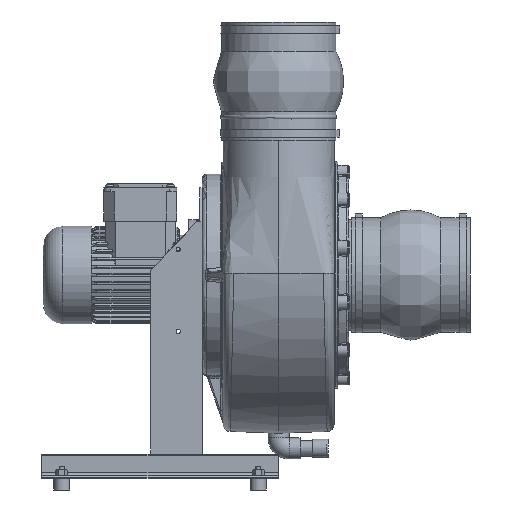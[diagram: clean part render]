
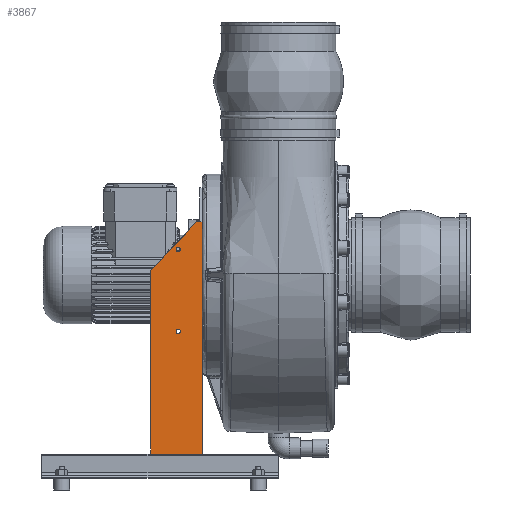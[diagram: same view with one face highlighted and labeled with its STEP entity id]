
A CAD part, left-side view. The second image highlights one B-rep face of the part: STEP entity #3867.
In plain terms, the highlighted planar face has unit normal (-1, 0, 0).
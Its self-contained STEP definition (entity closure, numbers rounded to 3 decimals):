
#3867 = ADVANCED_FACE( '', ( #9234, #9235, #9236 ), #9237, .T. );
#9234 = FACE_BOUND( '', #23707, .T. );
#9235 = FACE_BOUND( '', #23708, .T. );
#9236 = FACE_OUTER_BOUND( '', #23709, .T. );
#9237 = PLANE( '', #23710 );
#23707 = EDGE_LOOP( '', ( #57446 ) );
#23708 = EDGE_LOOP( '', ( #57447 ) );
#23709 = EDGE_LOOP( '', ( #57448, #57449, #57450, #57451, #57452 ) );
#23710 = AXIS2_PLACEMENT_3D( '', #57453, #57454, #57455 );
#57446 = ORIENTED_EDGE( '', *, *, #81681, .T. );
#57447 = ORIENTED_EDGE( '', *, *, #81682, .T. );
#57448 = ORIENTED_EDGE( '', *, *, #81683, .F. );
#57449 = ORIENTED_EDGE( '', *, *, #81684, .F. );
#57450 = ORIENTED_EDGE( '', *, *, #81685, .T. );
#57451 = ORIENTED_EDGE( '', *, *, #81686, .T. );
#57452 = ORIENTED_EDGE( '', *, *, #81687, .F. );
#57453 = CARTESIAN_POINT( '', ( -107., 65., -366. ) );
#57454 = DIRECTION( '', ( -1., 0., 0. ) );
#57455 = DIRECTION( '', ( 0., 0., 1. ) );
#81681 = EDGE_CURVE( '', #89668, #89668, #89669, .T. );
#81682 = EDGE_CURVE( '', #89670, #89670, #89671, .T. );
#81683 = EDGE_CURVE( '', #89672, #89673, #89674, .T. );
#81684 = EDGE_CURVE( '', #89675, #89672, #89676, .T. );
#81685 = EDGE_CURVE( '', #89675, #89677, #89678, .T. );
#81686 = EDGE_CURVE( '', #89677, #89679, #89680, .T. );
#81687 = EDGE_CURVE( '', #89673, #89679, #89681, .T. );
#89668 = VERTEX_POINT( '', #108355 );
#89669 = CIRCLE( '', #108356, 2.75 );
#89670 = VERTEX_POINT( '', #108357 );
#89671 = CIRCLE( '', #108358, 2.75 );
#89672 = VERTEX_POINT( '', #108359 );
#89673 = VERTEX_POINT( '', #108360 );
#89674 = LINE( '', #108361, #108362 );
#89675 = VERTEX_POINT( '', #108363 );
#89676 = LINE( '', #108364, #108365 );
#89677 = VERTEX_POINT( '', #108366 );
#89678 = LINE( '', #108367, #108368 );
#89679 = VERTEX_POINT( '', #108369 );
#89680 = LINE( '', #108370, #108371 );
#89681 = LINE( '', #108372, #108373 );
#108355 = CARTESIAN_POINT( '', ( -107., 30., -75.25 ) );
#108356 = AXIS2_PLACEMENT_3D( '', #135382, #135383, #135384 );
#108357 = CARTESIAN_POINT( '', ( -107., 30., -178.25 ) );
#108358 = AXIS2_PLACEMENT_3D( '', #135385, #135386, #135387 );
#108359 = CARTESIAN_POINT( '', ( -107., 65., -104.1 ) );
#108360 = CARTESIAN_POINT( '', ( -107., 6.72, -43. ) );
#108361 = CARTESIAN_POINT( '', ( -107., 195.804, -241.233 ) );
#108362 = VECTOR( '', #135388, 1000. );
#108363 = CARTESIAN_POINT( '', ( -107., 65., -366. ) );
#108364 = CARTESIAN_POINT( '', ( -107., 65., -366. ) );
#108365 = VECTOR( '', #135389, 1000. );
#108366 = CARTESIAN_POINT( '', ( -107., 0., -366. ) );
#108367 = CARTESIAN_POINT( '', ( -107., 65., -366. ) );
#108368 = VECTOR( '', #135390, 1000. );
#108369 = CARTESIAN_POINT( '', ( -107., 0., -43. ) );
#108370 = CARTESIAN_POINT( '', ( -107., 0., -366. ) );
#108371 = VECTOR( '', #135391, 1000. );
#108372 = CARTESIAN_POINT( '', ( -107., 428.925, -43. ) );
#108373 = VECTOR( '', #135392, 1000. );
#135382 = CARTESIAN_POINT( '', ( -107., 30., -78. ) );
#135383 = DIRECTION( '', ( 1., 0., 0. ) );
#135384 = DIRECTION( '', ( 0., 0., 1. ) );
#135385 = CARTESIAN_POINT( '', ( -107., 30., -181. ) );
#135386 = DIRECTION( '', ( 1., 0., 0. ) );
#135387 = DIRECTION( '', ( 0., 0., 1. ) );
#135388 = DIRECTION( '', ( 0., -0.69, 0.724 ) );
#135389 = DIRECTION( '', ( 0., 0., 1. ) );
#135390 = DIRECTION( '', ( 0., -1., 0. ) );
#135391 = DIRECTION( '', ( 0., 0., 1. ) );
#135392 = DIRECTION( '', ( 0., -1., 0. ) );
